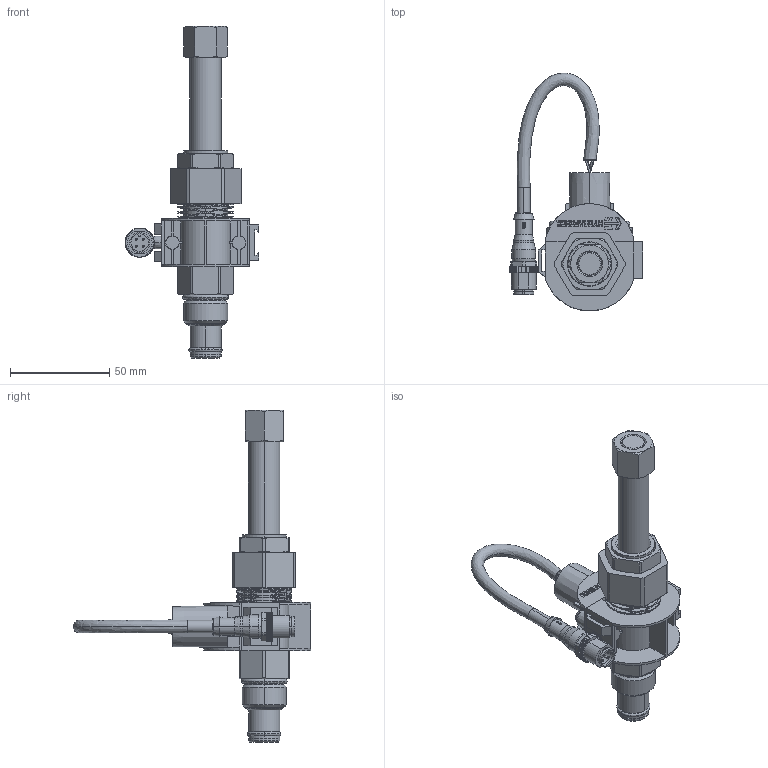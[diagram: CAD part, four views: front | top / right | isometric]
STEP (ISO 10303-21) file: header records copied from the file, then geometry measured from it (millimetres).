
FILE_DESCRIPTION((''),'2;1');
FILE_NAME('ASM0005_ASM','2021-06-23T15:53:31',('AB7'),(''),'CREO PARAMETRIC BY PTC INC, 2018020','CREO PARAMETRIC BY PTC INC, 2018020','');
FILE_SCHEMA(('CONFIG_CONTROL_DESIGN'));
Products named in the file (3): SV10-P21A; PRT0013; ASM0005_ASM
Assembly tree (2 placements, depth 2):
  ASM0005_ASM
    SV10-P21A
    PRT0013
Bounding box: 67.48 x 119.94 x 167.43 mm (x, y, z)
Volume: 95331.9 mm3; surface area: 41513.8 mm2
Topology: 2 solids, 2 shells, 1061 faces, 2964 edges, 1927 vertices
Faces by surface type: plane 506, cylinder 299, cone 86, bspline 78, extrusion 64, torus 20, revolution 8
Entity records: 43751 total; most frequent: CARTESIAN_POINT 17591, ORIENTED_EDGE 5920, DIRECTION 4657, EDGE_CURVE 2960, VERTEX_POINT 1927, VECTOR 1699, LINE 1635, AXIS2_PLACEMENT_3D 1475
